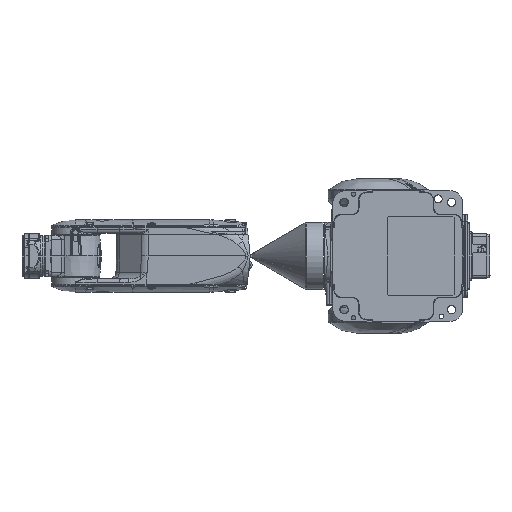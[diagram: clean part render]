
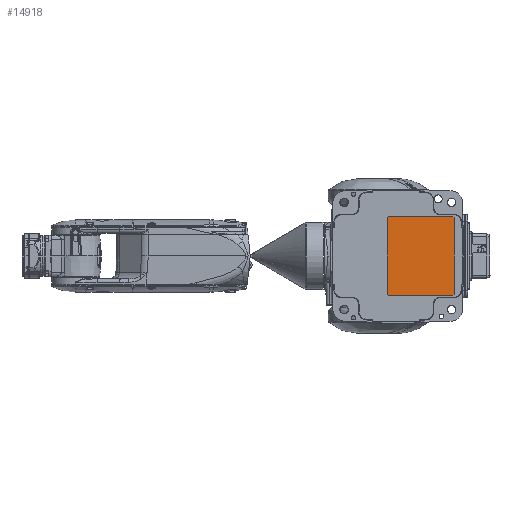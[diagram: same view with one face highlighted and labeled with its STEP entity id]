
A CAD part, front view. The second image highlights one B-rep face of the part: STEP entity #14918.
In plain terms, the highlighted planar face has unit normal (0, -1, 0).
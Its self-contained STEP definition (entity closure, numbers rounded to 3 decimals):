
#14918=ADVANCED_FACE('',(#20457),#18341,.F.);
#18341=PLANE('',#84232);
#20457=FACE_OUTER_BOUND('',#24767,.T.);
#24767=EDGE_LOOP('',(#34899,#34900,#34901,#34902,#34903,#34904,#34905,#34906));
#34899=ORIENTED_EDGE('',*,*,#65967,.F.);
#34900=ORIENTED_EDGE('',*,*,#65968,.T.);
#34901=ORIENTED_EDGE('',*,*,#65969,.F.);
#34902=ORIENTED_EDGE('',*,*,#65970,.T.);
#34903=ORIENTED_EDGE('',*,*,#65971,.F.);
#34904=ORIENTED_EDGE('',*,*,#65972,.T.);
#34905=ORIENTED_EDGE('',*,*,#65973,.F.);
#34906=ORIENTED_EDGE('',*,*,#65974,.T.);
#55888=VERTEX_POINT('',#132749);
#55889=VERTEX_POINT('',#132750);
#55890=VERTEX_POINT('',#132752);
#55891=VERTEX_POINT('',#132754);
#55892=VERTEX_POINT('',#132756);
#55893=VERTEX_POINT('',#132758);
#55894=VERTEX_POINT('',#132760);
#55895=VERTEX_POINT('',#132762);
#65967=EDGE_CURVE('',#55888,#55889,#76788,.T.);
#65968=EDGE_CURVE('',#55888,#55890,#76789,.T.);
#65969=EDGE_CURVE('',#55891,#55890,#76790,.T.);
#65970=EDGE_CURVE('',#55891,#55892,#76791,.T.);
#65971=EDGE_CURVE('',#55893,#55892,#76792,.T.);
#65972=EDGE_CURVE('',#55893,#55894,#76793,.T.);
#65973=EDGE_CURVE('',#55895,#55894,#76794,.T.);
#65974=EDGE_CURVE('',#55895,#55889,#76795,.T.);
#76788=LINE('',#132748,#80053);
#76789=LINE('',#132751,#80054);
#76790=LINE('',#132753,#80055);
#76791=LINE('',#132755,#80056);
#76792=LINE('',#132757,#80057);
#76793=LINE('',#132759,#80058);
#76794=LINE('',#132761,#80059);
#76795=LINE('',#132763,#80060);
#80053=VECTOR('',#94254,1.);
#80054=VECTOR('',#94255,1.);
#80055=VECTOR('',#94256,1.);
#80056=VECTOR('',#94257,1.);
#80057=VECTOR('',#94258,1.);
#80058=VECTOR('',#94259,1.);
#80059=VECTOR('',#94260,1.);
#80060=VECTOR('',#94261,1.);
#84232=AXIS2_PLACEMENT_3D('',#132764,#94262,#94263);
#94254=DIRECTION('',(-1.,0.,0.));
#94255=DIRECTION('',(0.707,0.,0.707));
#94256=DIRECTION('',(0.,0.,-1.));
#94257=DIRECTION('',(-0.707,0.,0.707));
#94258=DIRECTION('',(1.,0.,0.));
#94259=DIRECTION('',(-0.707,0.,-0.707));
#94260=DIRECTION('',(0.,0.,1.));
#94261=DIRECTION('',(0.707,0.,-0.707));
#94262=DIRECTION('',(0.,1.,0.));
#94263=DIRECTION('',(-1.,0.,0.));
#132748=CARTESIAN_POINT('',(82.,4.6,-59.));
#132749=CARTESIAN_POINT('',(82.,4.6,-59.));
#132750=CARTESIAN_POINT('',(-14.,4.6,-59.));
#132751=CARTESIAN_POINT('',(82.,4.6,-59.));
#132752=CARTESIAN_POINT('',(84.,4.6,-57.));
#132753=CARTESIAN_POINT('',(84.,4.6,57.));
#132754=CARTESIAN_POINT('',(84.,4.6,57.));
#132755=CARTESIAN_POINT('',(84.,4.6,57.));
#132756=CARTESIAN_POINT('',(82.,4.6,59.));
#132757=CARTESIAN_POINT('',(-14.,4.6,59.));
#132758=CARTESIAN_POINT('',(-14.,4.6,59.));
#132759=CARTESIAN_POINT('',(-14.,4.6,59.));
#132760=CARTESIAN_POINT('',(-16.,4.6,57.));
#132761=CARTESIAN_POINT('',(-16.,4.6,-57.));
#132762=CARTESIAN_POINT('',(-16.,4.6,-57.));
#132763=CARTESIAN_POINT('',(-16.,4.6,-57.));
#132764=CARTESIAN_POINT('',(34.,4.6,59.));
